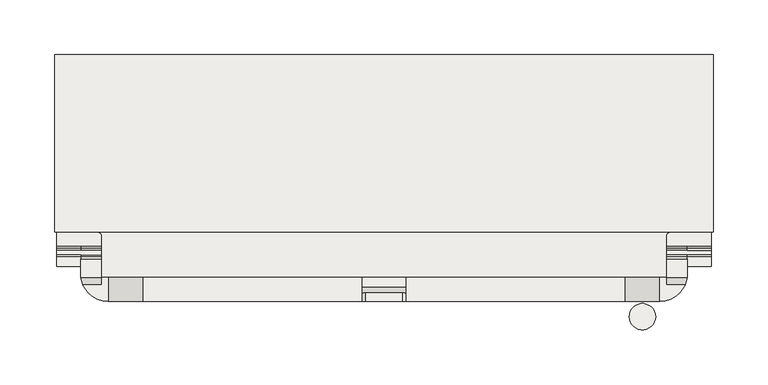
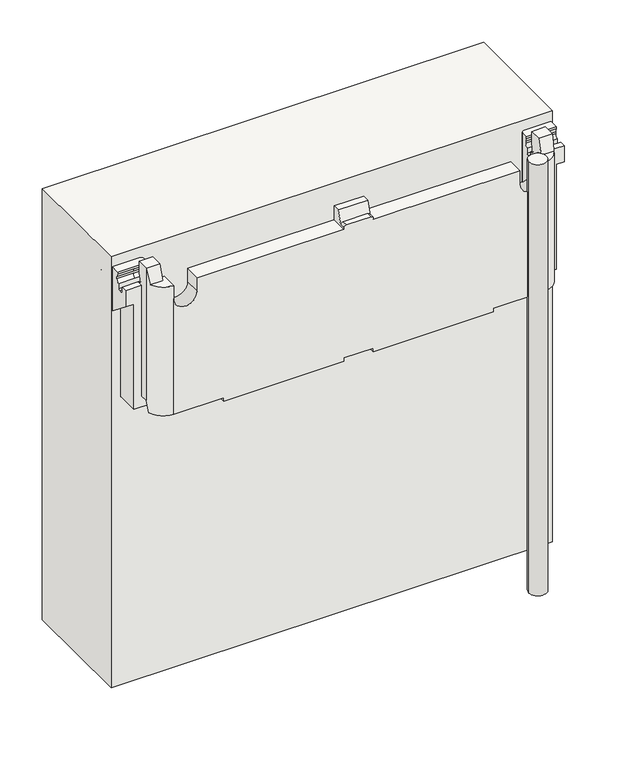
"""IFC4 building model written with IfcOpenShell, lengths in millimetres: covering geometry, panel VP Modulo prova ultima texture : panel VP Modulo prova ultima texture."""

from ifc_helpers import new_model, si_unit, point, frame, frame_2d, origin, origin_with_axes, place, context, project, spatial, polyline, circle_curve, ellipse_curve, trimmed, segment, composite_curve, outline, extrude, source, transform, mapped, element, save
from ifc_brep_helpers import plane_surface, cylinder_surface, revolved_surface, advanced_brep


def covering_1240b5f1(model_context):
    return source(origin(), model_context, "Body", "SolidModel", [
        advanced_brep(
        [(-20.0, 40.503817, 620.002181), (-20.0, 49.5015434, 620.002181), (-20.0, 49.5015434, 600.0051242), (-20.0, 27.5015432, 600.0051242), (-20.0, 27.5015432, 602.0051242), (-20.0, 34.5021229, 602.0051242), (20.0, 49.5015434, 620.002181), (20.0, 40.503817, 620.002181), (20.0, 34.5021229, 602.0051242), (20.0, 27.5015432, 602.0051242), (20.0, 27.5015432, 600.0051242), (20.0, 49.5015434, 600.0051242), (-17.0, 35.5025688, 605.0051242), (17.0, 35.5025688, 605.0051242), (17.0, 27.5015432, 605.0051242), (-17.0, 27.5015432, 605.0051242), (-276.2404059, 49.5015434, 620.0), (-276.2404059, 65.772467, 620.0), (-276.2404059, 65.772467, 602.0569559), (-276.2404059, 63.7739273, 597.1614448), (-276.2404059, 63.7739273, 594.1614448), (-276.2404059, 67.7745502, 589.465245), (-276.2404059, 59.5, 589.465245), (-276.2404059, 59.5, 430.0008375), (-276.2404059, 49.5015434, 430.0008375), (276.2404059, 67.7745502, 589.465245), (276.2404059, 63.7739273, 594.1614448), (276.2404059, 63.7739273, 597.1614448), (276.2404059, 65.772467, 602.0569559), (276.2404059, 65.772467, 620.0), (276.2404059, 49.5015434, 620.0), (276.2404059, 49.5015434, 430.0008375), (276.2404059, 59.5, 430.0008375), (276.2404059, 59.5, 589.465245), (219.5404059, 27.5015432, 600.0051242), (219.5404059, 49.5015434, 600.0051242), (257.5404059, 42.6167555, 600.0051242), (257.5404059, 49.5015434, 600.0051242), (251.5404059, 49.5015434, 600.0051242), (251.5404059, 27.5015432, 600.0051242), (274.4146377, 42.6167555, 600.0051242), (-251.5404059, 27.5015432, 600.0051242), (-251.5404059, 49.5015434, 600.0051242), (-257.5404059, 49.5015434, 600.0051242), (-257.5404059, 42.6167555, 600.0051242), (-274.4146377, 42.6167555, 600.0051242), (-219.5404059, 49.5015434, 600.0051242), (-219.5404059, 27.5015432, 600.0051242), (-276.2404059, 109.8415131, 437.0015138), (276.2404059, 109.8415131, 437.0015138), (276.2404059, 141.2113001, 464.6420064), (-276.2404059, 141.2113001, 464.6420064), (-276.2404059, 147.3447094, 471.104234), (276.2404059, 147.3447094, 471.104234), (276.2404059, 184.4941844, 517.9868892), (-276.2404059, 184.4941844, 517.9868892), (276.2404059, 184.4941844, 544.985744), (-276.2404059, 184.4941844, 544.985744), (298.2404059, 184.4914281, 544.985744), (298.2404059, 202.488872, 544.985744), (-298.2404059, 202.488872, 544.985744), (-298.2404059, 184.4914281, 544.985744), (-298.2404059, 202.488872, 505.2724689), (298.2404059, 202.488872, 505.2724689), (276.2404059, 193.4423608, 463.8939381), (-276.2404059, 193.4423608, 463.8939381), (-298.2404059, 193.4423608, 463.8939381), (298.2404059, 193.4423608, 463.8939381), (276.2404059, 190.281945, 462.7662479), (-276.2404059, 190.281945, 462.7662479), (298.2404059, 190.281945, 462.7662479), (298.2404059, 59.5, 566.3969024), (287.2404059, 59.5, 566.3969024), (287.2404059, 180.2456216, 470.7189571), (276.2404059, 180.2456216, 470.7189571), (-276.2404059, 180.2456216, 470.7189571), (-287.2404059, 180.2456216, 470.7189571), (-287.2404059, 59.5, 566.3969024), (-298.2404059, 59.5, 566.3969024), (-298.2404059, 190.281945, 462.7662479), (276.2404059, 174.5899002, 470.0638751), (-276.2404059, 174.5899002, 470.0638751), (287.2404059, 174.5899002, 470.0638751), (287.2404059, 160.5878776, 452.3933509), (-287.2404059, 160.5878776, 452.3933509), (-287.2404059, 174.5899002, 470.0638751), (-287.2404059, 118.1414154, 414.9929974), (287.2404059, 118.1414154, 414.9929974), (251.5404059, 118.1414154, 414.9929974), (211.5404059, 118.1414154, 414.9929974), (20.0, 118.1414154, 414.9929974), (-20.0, 118.1414154, 414.9929974), (-211.5404059, 118.1414154, 414.9929974), (-251.5404059, 118.1414154, 414.9929974), (-287.2404059, 59.5, 415.0051259), (-251.5404059, 78.1414154, 415.0051259), (-211.5404059, 78.1414154, 415.0051259), (-20.0, 78.1414154, 415.0051259), (20.0, 78.1414154, 415.0051259), (211.5404059, 78.1414154, 415.0051259), (251.5404059, 78.1414154, 415.0051259), (287.2404059, 59.5, 415.0051259), (266.2404059, 59.5, 415.0051259), (266.2404059, 44.6291413, 415.0051259), (275.1714066, 44.6291413, 415.0051259), (251.5404059, 27.5015432, 415.0051259), (183.2404059, 27.5015432, 415.0051259), (183.2404059, 67.5015432, 415.0051259), (20.0, 67.5015432, 415.0051259), (20.0, 27.5015432, 415.0051259), (-20.0, 27.5015432, 415.0051259), (-20.0, 67.5015432, 415.0051259), (-183.2404059, 67.5015432, 415.0051259), (-183.2404059, 27.5015432, 415.0051259), (-251.5404059, 27.5015432, 415.0051259), (-275.1714066, 44.6291413, 415.0051259), (-266.2404059, 44.6291413, 415.0051259), (-266.2404059, 59.5, 415.0051259), (-219.5404059, 27.5015432, 580.9815937), (-251.5404059, 27.5015432, 580.9815937), (-183.2404059, 27.5015432, 409.9955405), (-20.0, 27.5015432, 409.9955405), (20.0, 27.5015432, 409.9955405), (183.2404059, 27.5015432, 409.9955405), (251.5404059, 27.5015432, 580.9815937), (219.5404059, 27.5015432, 580.9815937), (-251.5404059, 49.5015434, 580.9815937), (-219.5404059, 49.5015434, 580.9815937), (219.5404059, 49.5015434, 580.9815937), (251.5404059, 49.5015434, 580.9815937), (257.5404059, 49.5015434, 437.0015138), (-257.5404059, 49.5015434, 437.0015138), (-276.2404059, 101.3665857, 437.0015138), (-265.6338042, 90.7599839, 437.0015138), (-261.9338042, 90.7599839, 437.0015138), (-257.5404059, 86.3665857, 437.0015138), (257.5404059, 86.3665857, 437.0015138), (261.9338042, 90.7599839, 437.0015138), (265.6338042, 90.7599839, 437.0015138), (276.2404059, 101.3665857, 437.0015138), (-298.2404059, 59.5, 589.465245), (-298.2404059, 67.7745502, 589.465245), (-298.2404059, 67.7745502, 582.4654102), (-298.2404059, 69.7745502, 580.4654102), (-298.2404059, 74.0001297, 580.4654102), (-298.2404059, 76.0001297, 582.4654102), (-298.2404059, 76.0001297, 589.465245), (-298.2404059, 80.0007527, 594.1614448), (-298.2404059, 80.0007527, 597.1614448), (-298.2404059, 78.002213, 602.0569559), (-298.2404059, 78.002213, 605.0086707), (-298.2404059, 115.166168, 605.0086707), (-298.2404059, 118.166168, 602.0086707), (-298.2404059, 118.166168, 585.7281184), (-298.2404059, 119.6447617, 583.1425192), (-276.2404059, 119.6447617, 583.1425192), (-276.2404059, 118.166168, 585.7281184), (-276.2404059, 118.166168, 602.0086707), (-276.2404059, 115.166168, 605.0086707), (-276.2404059, 101.3665857, 605.0086707), (-266.2404059, 59.5, 430.0008375), (-257.5404059, 67.7745502, 589.465245), (-257.5404059, 67.7745502, 582.4654102), (-276.2404059, 67.7745502, 582.4654102), (-276.2404059, 69.7745502, 580.4654102), (-257.5404059, 69.7745502, 580.4654102), (-257.5404059, 74.0001297, 580.4654102), (-276.2404059, 74.0001297, 580.4654102), (-276.2404059, 76.0001297, 582.4654102), (-257.5404059, 76.0001297, 582.4654102), (-257.5404059, 76.0001297, 589.465245), (-276.2404059, 76.0001297, 589.465245), (-276.2404059, 80.0007527, 594.1614448), (-257.5404059, 80.0007527, 594.1614448), (-257.5404059, 80.0007527, 597.1614448), (-276.2404059, 80.0007527, 597.1614448), (-276.2404059, 78.002213, 602.0569559), (-257.5404059, 78.002213, 602.0569559), (-257.5404059, 78.002213, 605.0086707), (-257.5404059, 86.3665857, 605.0086707), (-261.9338042, 90.7599839, 605.0086707), (-265.6338042, 90.7599839, 605.0086707), (-257.5404059, 63.7739273, 594.1614448), (-257.5404059, 63.7739273, 597.1614448), (-257.5404059, 65.772467, 602.0569559), (-257.5404059, 65.772467, 620.0), (-257.5404059, 49.5015434, 620.0), (298.2404059, 119.6447617, 583.1425192), (298.2404059, 118.166168, 585.7281184), (298.2404059, 118.166168, 602.0086707), (298.2404059, 115.166168, 605.0086707), (298.2404059, 78.002213, 605.0086707), (298.2404059, 78.002213, 602.0569559), (298.2404059, 80.0007527, 597.1614448), (298.2404059, 80.0007527, 594.1614448), (298.2404059, 76.0001297, 589.465245), (298.2404059, 76.0001297, 582.4654102), (298.2404059, 74.0001297, 580.4654102), (298.2404059, 69.7745502, 580.4654102), (298.2404059, 67.7745502, 582.4654102), (298.2404059, 67.7745502, 589.465245), (298.2404059, 59.5, 589.465245), (276.2404059, 115.166168, 605.0086707), (276.2404059, 118.166168, 602.0086707), (276.2404059, 118.166168, 585.7281184), (276.2404059, 119.6447617, 583.1425192), (276.2404059, 101.3665857, 605.0086707), (266.2404059, 59.5, 430.0008375), (276.2404059, 69.7745502, 580.4654102), (276.2404059, 67.7745502, 582.4654102), (276.2404059, 76.0001297, 582.4654102), (276.2404059, 74.0001297, 580.4654102), (276.2404059, 80.0007527, 594.1614448), (276.2404059, 76.0001297, 589.465245), (276.2404059, 78.002213, 602.0569559), (276.2404059, 80.0007527, 597.1614448), (257.5404059, 49.5015434, 620.0), (257.5404059, 65.772467, 620.0), (257.5404059, 65.772467, 602.0569559), (257.5404059, 63.7739273, 597.1614448), (257.5404059, 63.7739273, 594.1614448), (257.5404059, 67.7745502, 589.465245), (257.5404059, 67.7745502, 582.4654102), (257.5404059, 69.7745502, 580.4654102), (257.5404059, 74.0001297, 580.4654102), (257.5404059, 76.0001297, 582.4654102), (257.5404059, 76.0001297, 589.465245), (257.5404059, 80.0007527, 594.1614448), (257.5404059, 80.0007527, 597.1614448), (257.5404059, 78.002213, 602.0569559), (257.5404059, 78.002213, 605.0086707), (257.5404059, 86.3665857, 605.0086707), (265.6338042, 90.7599839, 605.0086707), (261.9338042, 90.7599839, 605.0086707), (251.5404059, 78.1414154, 409.9955405), (211.5404059, 78.1414154, 409.9955405), (211.5404059, 118.1414154, 409.9955405), (251.5404059, 118.1414154, 409.9955405), (-20.0, 78.1414154, 409.9955405), (-20.0, 118.1414154, 409.9955405), (20.0, 118.1414154, 409.9955405), (20.0, 78.1414154, 409.9955405), (-251.5404059, 78.1414154, 409.9955405), (-251.5404059, 118.1414154, 409.9955405), (-211.5404059, 118.1414154, 409.9955405), (-211.5404059, 78.1414154, 409.9955405), (20.0, 67.5015432, 409.9955405), (183.2404059, 67.5015432, 409.9955405), (-20.0, 67.5015432, 409.9955405), (-183.2404059, 67.5015432, 409.9955405), (-266.2404059, 49.5015434, 430.0008375), (266.2404059, 49.5015434, 430.0008375)],
        [
            (0, 1),
            (1, 2),
            (2, 3),
            (3, 4),
            (4, 5),
            (5, 0),
            (6, 7),
            (7, 8),
            (8, 9),
            (9, 10),
            (10, 11),
            (11, 6),
            (0, 7),
            (6, 1),
            (5, 12, ellipse_curve(frame((-17.0, 34.5021229, 602.0051242), z_axis=(0.0, 0.9486409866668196, -0.31635467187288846), x_axis=(0.0, 0.31635467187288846, 0.9486409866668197)), 3.1624187, 3.0)),
            (12, 13),
            (13, 8, ellipse_curve(frame((17.0, 34.5021229, 602.0051242), z_axis=(0.0, 0.9486409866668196, -0.31635467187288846), x_axis=(0.0, 0.31635467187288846, 0.9486409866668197)), 3.1624187, 3.0)),
            (14, 9, circle_curve(frame((17.0, 27.5015432, 602.0051242), z_axis=(0.0, 1.0, 0.0), x_axis=(-1.0, 0.0, 0.0)), 3.0)),
            (13, 14),
            (4, 15, circle_curve(frame((-17.0, 27.5015432, 602.0051242), z_axis=(0.0, 1.0, 0.0), x_axis=(-1.0, 0.0, 0.0)), 3.0)),
            (15, 12),
            (15, 14),
            (16, 17),
            (17, 18),
            (18, 19, circle_curve(frame((-276.2404059, 70.7690822, 597.1614448), z_axis=(1.0, 0.0, 0.0), x_axis=(0.0, -1.0, 0.0)), 6.9951549)),
            (19, 20),
            (20, 21, circle_curve(frame((-276.2404059, 68.5305961, 594.1614448), z_axis=(1.0, 0.0, 0.0), x_axis=(0.0, -1.0, 0.0)), 4.7566689)),
            (21, 22),
            (22, 23),
            (23, 24),
            (24, 16),
            (25, 26, circle_curve(frame((276.2404059, 68.5305961, 594.1614448), z_axis=(-1.0, 0.0, 0.0), x_axis=(0.0, -1.0, 0.0)), 4.7566689)),
            (26, 27),
            (27, 28, circle_curve(frame((276.2404059, 70.7690822, 597.1614448), z_axis=(-1.0, 0.0, 0.0), x_axis=(0.0, -1.0, 0.0)), 6.9951549)),
            (28, 29),
            (29, 30),
            (30, 31),
            (31, 32),
            (32, 33),
            (33, 25),
            (10, 34),
            (34, 35),
            (35, 11),
            (36, 37),
            (37, 38),
            (38, 39),
            (39, 40, circle_curve(frame((251.5404059, 52.367225, 600.0051242), z_axis=(0.0, 0.0, 1.0), x_axis=(1.0, 0.0, 0.0)), 24.8656818)),
            (40, 36),
            (41, 42),
            (42, 43),
            (43, 44),
            (44, 45),
            (45, 41, circle_curve(frame((-251.5404059, 52.367225, 600.0051242), z_axis=(0.0, 0.0, 1.0), x_axis=(-1.0, 0.0, 0.0)), 24.8656818)),
            (46, 47),
            (47, 3),
            (2, 46),
            (48, 49),
            (49, 50),
            (50, 51),
            (51, 48),
            (52, 53),
            (53, 54),
            (54, 55),
            (55, 52),
            (54, 56),
            (56, 57),
            (57, 55),
            (56, 58),
            (58, 59),
            (59, 60),
            (60, 61),
            (61, 57),
            (62, 60),
            (59, 63),
            (63, 62),
            (64, 65),
            (65, 66),
            (66, 62),
            (63, 67),
            (67, 64),
            (64, 68, circle_curve(frame((276.2404059, 191.5102381, 464.3163545), z_axis=(-1.0, 0.0, 0.0), x_axis=(0.0, -1.0, 0.0)), 1.9777598)),
            (68, 69),
            (69, 65, circle_curve(frame((-276.2404059, 191.5102381, 464.3163545), z_axis=(1.0, 0.0, 0.0), x_axis=(0.0, -1.0, 0.0)), 1.9777598)),
            (68, 70),
            (70, 71),
            (71, 72),
            (72, 73),
            (73, 74),
            (74, 75),
            (75, 76),
            (76, 77),
            (77, 78),
            (78, 79),
            (79, 69),
            (74, 80, circle_curve(frame((276.2404059, 177.7453022, 467.5635526), z_axis=(1.0, 0.0, 0.0), x_axis=(0.0, -1.0, 0.0)), 4.0259377)),
            (80, 81),
            (81, 75, circle_curve(frame((-276.2404059, 177.7453022, 467.5635526), z_axis=(-1.0, 0.0, 0.0), x_axis=(0.0, -1.0, 0.0)), 4.0259377)),
            (80, 82),
            (82, 83),
            (83, 84),
            (84, 85),
            (85, 81),
            (86, 84),
            (83, 87),
            (87, 88),
            (88, 89),
            (89, 90),
            (90, 91),
            (91, 92),
            (92, 93),
            (93, 86),
            (50, 53, circle_curve(frame((276.2404059, 108.1562691, 502.1568691), z_axis=(1.0, 0.0, 0.0), x_axis=(0.0, -1.0, 0.0)), 50.0)),
            (52, 51, circle_curve(frame((-276.2404059, 108.1562691, 502.1568691), z_axis=(-1.0, 0.0, 0.0), x_axis=(0.0, -1.0, 0.0)), 50.0)),
            (94, 86),
            (93, 95),
            (95, 96),
            (96, 92),
            (91, 97),
            (97, 98),
            (98, 90),
            (89, 99),
            (99, 100),
            (100, 88),
            (87, 101),
            (101, 102),
            (102, 103),
            (103, 104),
            (104, 105, circle_curve(frame((251.5404059, 52.367225, 415.0051259), z_axis=(0.0, 0.0, -1.0), x_axis=(1.0, 0.0, 0.0)), 24.8656818)),
            (105, 106),
            (106, 107),
            (107, 108),
            (108, 109),
            (109, 110),
            (110, 111),
            (111, 112),
            (112, 113),
            (113, 114),
            (114, 115, circle_curve(frame((-251.5404059, 52.367225, 415.0051259), z_axis=(0.0, 0.0, -1.0), x_axis=(-1.0, 0.0, 0.0)), 24.8656818)),
            (115, 116),
            (116, 117),
            (117, 94),
            (47, 118),
            (118, 119, circle_curve(frame((-235.5404059, 27.5015432, 580.9815937), z_axis=(0.0, 1.0, 0.0), x_axis=(-1.0, 0.0, 0.0)), 16.0)),
            (119, 114),
            (113, 120),
            (120, 121),
            (121, 110),
            (109, 122),
            (122, 123),
            (123, 106),
            (105, 124),
            (124, 125, circle_curve(frame((235.5404059, 27.5015432, 580.9815937), z_axis=(0.0, 1.0, 0.0), x_axis=(1.0, 0.0, 0.0)), 16.0)),
            (125, 34),
            (42, 126),
            (126, 127, circle_curve(frame((-235.5404059, 49.5015434, 580.9815937), z_axis=(0.0, -1.0, 0.0), x_axis=(-1.0, 0.0, 0.0)), 16.0)),
            (127, 46),
            (35, 128),
            (128, 129, circle_curve(frame((235.5404059, 49.5015434, 580.9815937), z_axis=(0.0, -1.0, 0.0), x_axis=(1.0, 0.0, 0.0)), 16.0)),
            (129, 38),
            (37, 130),
            (130, 131),
            (131, 43),
            (48, 132),
            (132, 133, circle_curve(frame((-265.6338042, 101.3665857, 437.0015138), z_axis=(0.0, 0.0, 1.0), x_axis=(-1.0, 0.0, 0.0)), 10.6066017)),
            (133, 134),
            (134, 135, circle_curve(frame((-261.9338042, 86.3665857, 437.0015138), z_axis=(0.0, 0.0, -1.0), x_axis=(-1.0, 0.0, 0.0)), 4.3933983)),
            (135, 131),
            (130, 136),
            (136, 137, circle_curve(frame((261.9338042, 86.3665857, 437.0015138), z_axis=(0.0, 0.0, -1.0), x_axis=(1.0, 0.0, 0.0)), 4.3933983)),
            (137, 138),
            (138, 139, circle_curve(frame((265.6338042, 101.3665857, 437.0015138), z_axis=(0.0, 0.0, 1.0), x_axis=(1.0, 0.0, 0.0)), 10.6066017)),
            (139, 49),
            (66, 79, circle_curve(frame((-298.2404059, 191.5102381, 464.3163545), z_axis=(-1.0, 0.0, 0.0), x_axis=(0.0, -1.0, 0.0)), 1.9777598)),
            (78, 140),
            (140, 141),
            (141, 142),
            (142, 143, circle_curve(frame((-298.2404059, 69.7745502, 582.4654102), z_axis=(1.0, 0.0, 0.0), x_axis=(0.0, -1.0, 0.0)), 2.0)),
            (143, 144),
            (144, 145, circle_curve(frame((-298.2404059, 74.0001297, 582.4654102), z_axis=(1.0, 0.0, 0.0), x_axis=(0.0, -1.0, 0.0)), 2.0)),
            (145, 146),
            (146, 147, circle_curve(frame((-298.2404059, 75.2440838, 594.1614448), z_axis=(1.0, 0.0, 0.0), x_axis=(0.0, -1.0, 0.0)), 4.7566689)),
            (147, 148),
            (148, 149, circle_curve(frame((-298.2404059, 73.0055977, 597.1614448), z_axis=(1.0, 0.0, 0.0), x_axis=(0.0, -1.0, 0.0)), 6.9951549)),
            (149, 150),
            (150, 151),
            (151, 152, circle_curve(frame((-298.2404059, 115.166168, 602.0086707), z_axis=(-1.0, 0.0, 0.0), x_axis=(0.0, -1.0, 0.0)), 3.0)),
            (152, 153),
            (153, 154, circle_curve(frame((-298.2404059, 121.166168, 585.7281184), z_axis=(1.0, 0.0, 0.0), x_axis=(0.0, -1.0, 0.0)), 3.0)),
            (154, 61),
            (57, 155),
            (155, 156, circle_curve(frame((-276.2404059, 121.166168, 585.7281184), z_axis=(-1.0, 0.0, 0.0), x_axis=(0.0, -1.0, 0.0)), 3.0)),
            (156, 157),
            (157, 158, circle_curve(frame((-276.2404059, 115.166168, 602.0086707), z_axis=(1.0, 0.0, 0.0), x_axis=(0.0, -1.0, 0.0)), 3.0)),
            (158, 159),
            (159, 132),
            (77, 94),
            (117, 160),
            (160, 23),
            (22, 140),
            (141, 21),
            (21, 161),
            (161, 162),
            (162, 163),
            (163, 142),
            (163, 164, circle_curve(frame((-276.2404059, 69.7745502, 582.4654102), z_axis=(1.0, 0.0, 0.0), x_axis=(0.0, -1.0, 0.0)), 2.0)),
            (164, 143),
            (164, 165),
            (165, 166),
            (166, 167),
            (167, 144),
            (167, 168, circle_curve(frame((-276.2404059, 74.0001297, 582.4654102), z_axis=(1.0, 0.0, 0.0), x_axis=(0.0, -1.0, 0.0)), 2.0)),
            (168, 145),
            (168, 169),
            (169, 170),
            (170, 171),
            (171, 146),
            (171, 172, circle_curve(frame((-276.2404059, 75.2440838, 594.1614448), z_axis=(1.0, 0.0, 0.0), x_axis=(0.0, -1.0, 0.0)), 4.7566689)),
            (172, 147),
            (172, 173),
            (173, 174),
            (174, 175),
            (175, 148),
            (175, 176, circle_curve(frame((-276.2404059, 73.0055977, 597.1614448), z_axis=(1.0, 0.0, 0.0), x_axis=(0.0, -1.0, 0.0)), 6.9951549)),
            (176, 149),
            (176, 177),
            (177, 178),
            (178, 150),
            (178, 179),
            (179, 180, circle_curve(frame((-261.9338042, 86.3665857, 605.0086707), z_axis=(0.0, 0.0, 1.0), x_axis=(-1.0, 0.0, 0.0)), 4.3933983)),
            (180, 181),
            (181, 159, circle_curve(frame((-265.6338042, 101.3665857, 605.0086707), z_axis=(0.0, 0.0, -1.0), x_axis=(-1.0, 0.0, 0.0)), 10.6066017)),
            (158, 151),
            (157, 152),
            (156, 153),
            (155, 154),
            (76, 85, circle_curve(frame((-287.2404059, 177.7453022, 467.5635526), z_axis=(1.0, 0.0, 0.0), x_axis=(0.0, -1.0, 0.0)), 4.0259377)),
            (45, 16, ellipse_curve(frame((-251.5404059, 52.367225, 628.3225437), z_axis=(0.0, 0.9455185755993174, -0.32556815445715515), x_axis=(0.0, -0.3255681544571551, -0.9455185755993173)), 76.3762716, 24.8656818)),
            (24, 115, ellipse_curve(frame((-251.5404059, 52.367225, 438.8204986), z_axis=(0.0, -0.9510565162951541, 0.3090169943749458), x_axis=(0.0, -0.30901699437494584, -0.9510565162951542)), 80.4670366, 24.8656818)),
            (119, 41),
            (177, 174, circle_curve(frame((-257.5404059, 73.0055977, 597.1614448), z_axis=(-1.0, 0.0, 0.0), x_axis=(0.0, -1.0, 0.0)), 6.9951549)),
            (173, 170, circle_curve(frame((-257.5404059, 75.2440838, 594.1614448), z_axis=(-1.0, 0.0, 0.0), x_axis=(0.0, -1.0, 0.0)), 4.7566689)),
            (169, 166, circle_curve(frame((-257.5404059, 74.0001297, 582.4654102), z_axis=(-1.0, 0.0, 0.0), x_axis=(0.0, -1.0, 0.0)), 2.0)),
            (165, 162, circle_curve(frame((-257.5404059, 69.7745502, 582.4654102), z_axis=(-1.0, 0.0, 0.0), x_axis=(0.0, -1.0, 0.0)), 2.0)),
            (161, 182, circle_curve(frame((-257.5404059, 68.5305961, 594.1614448), z_axis=(-1.0, 0.0, 0.0), x_axis=(0.0, -1.0, 0.0)), 4.7566689)),
            (182, 183),
            (183, 184, circle_curve(frame((-257.5404059, 70.7690822, 597.1614448), z_axis=(-1.0, 0.0, 0.0), x_axis=(0.0, -1.0, 0.0)), 6.9951549)),
            (184, 185),
            (185, 186),
            (186, 44),
            (135, 179),
            (16, 186),
            (185, 17),
            (184, 18),
            (183, 19),
            (182, 20),
            (134, 180),
            (133, 181),
            (39, 124),
            (104, 31, ellipse_curve(frame((251.5404059, 52.367225, 438.8204986), z_axis=(0.0, -0.9510565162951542, 0.3090169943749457), x_axis=(0.0, -0.3090169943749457, -0.9510565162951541)), 80.4670366, 24.8656818)),
            (30, 40, ellipse_curve(frame((251.5404059, 52.367225, 628.3225437), z_axis=(0.0, 0.9455185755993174, -0.3255681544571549), x_axis=(0.0, -0.3255681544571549, -0.9455185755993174)), 76.3762716, 24.8656818)),
            (58, 187),
            (187, 188, circle_curve(frame((298.2404059, 121.166168, 585.7281184), z_axis=(-1.0, 0.0, 0.0), x_axis=(0.0, -1.0, 0.0)), 3.0)),
            (188, 189),
            (189, 190, circle_curve(frame((298.2404059, 115.166168, 602.0086707), z_axis=(1.0, 0.0, 0.0), x_axis=(0.0, -1.0, 0.0)), 3.0)),
            (190, 191),
            (191, 192),
            (192, 193, circle_curve(frame((298.2404059, 73.0055977, 597.1614448), z_axis=(-1.0, 0.0, 0.0), x_axis=(0.0, -1.0, 0.0)), 6.9951549)),
            (193, 194),
            (194, 195, circle_curve(frame((298.2404059, 75.2440838, 594.1614448), z_axis=(-1.0, 0.0, 0.0), x_axis=(0.0, -1.0, 0.0)), 4.7566689)),
            (195, 196),
            (196, 197, circle_curve(frame((298.2404059, 74.0001297, 582.4654102), z_axis=(-1.0, 0.0, 0.0), x_axis=(0.0, -1.0, 0.0)), 2.0)),
            (197, 198),
            (198, 199, circle_curve(frame((298.2404059, 69.7745502, 582.4654102), z_axis=(-1.0, 0.0, 0.0), x_axis=(0.0, -1.0, 0.0)), 2.0)),
            (199, 200),
            (200, 201),
            (201, 71),
            (70, 67, circle_curve(frame((298.2404059, 191.5102381, 464.3163545), z_axis=(1.0, 0.0, 0.0), x_axis=(0.0, -1.0, 0.0)), 1.9777598)),
            (202, 203, circle_curve(frame((276.2404059, 115.166168, 602.0086707), z_axis=(-1.0, 0.0, 0.0), x_axis=(0.0, -1.0, 0.0)), 3.0)),
            (203, 204),
            (204, 205, circle_curve(frame((276.2404059, 121.166168, 585.7281184), z_axis=(1.0, 0.0, 0.0), x_axis=(0.0, -1.0, 0.0)), 3.0)),
            (205, 56),
            (139, 206),
            (206, 202),
            (201, 33),
            (32, 207),
            (207, 102),
            (101, 72),
            (198, 208),
            (208, 209, circle_curve(frame((276.2404059, 69.7745502, 582.4654102), z_axis=(-1.0, 0.0, 0.0), x_axis=(0.0, -1.0, 0.0)), 2.0)),
            (209, 199),
            (196, 210),
            (210, 211, circle_curve(frame((276.2404059, 74.0001297, 582.4654102), z_axis=(-1.0, 0.0, 0.0), x_axis=(0.0, -1.0, 0.0)), 2.0)),
            (211, 197),
            (194, 212),
            (212, 213, circle_curve(frame((276.2404059, 75.2440838, 594.1614448), z_axis=(-1.0, 0.0, 0.0), x_axis=(0.0, -1.0, 0.0)), 4.7566689)),
            (213, 195),
            (192, 214),
            (214, 215, circle_curve(frame((276.2404059, 73.0055977, 597.1614448), z_axis=(-1.0, 0.0, 0.0), x_axis=(0.0, -1.0, 0.0)), 6.9951549)),
            (215, 193),
            (189, 203),
            (202, 190),
            (188, 204),
            (187, 205),
            (200, 25),
            (36, 216),
            (216, 217),
            (217, 218),
            (218, 219, circle_curve(frame((257.5404059, 70.7690822, 597.1614448), z_axis=(1.0, 0.0, 0.0), x_axis=(0.0, -1.0, 0.0)), 6.9951549)),
            (219, 220),
            (220, 221, circle_curve(frame((257.5404059, 68.5305961, 594.1614448), z_axis=(1.0, 0.0, 0.0), x_axis=(0.0, -1.0, 0.0)), 4.7566689)),
            (221, 222),
            (222, 223, circle_curve(frame((257.5404059, 69.7745502, 582.4654102), z_axis=(1.0, 0.0, 0.0), x_axis=(0.0, -1.0, 0.0)), 2.0)),
            (223, 224),
            (224, 225, circle_curve(frame((257.5404059, 74.0001297, 582.4654102), z_axis=(1.0, 0.0, 0.0), x_axis=(0.0, -1.0, 0.0)), 2.0)),
            (225, 226),
            (226, 227, circle_curve(frame((257.5404059, 75.2440838, 594.1614448), z_axis=(1.0, 0.0, 0.0), x_axis=(0.0, -1.0, 0.0)), 4.7566689)),
            (227, 228),
            (228, 229, circle_curve(frame((257.5404059, 73.0055977, 597.1614448), z_axis=(1.0, 0.0, 0.0), x_axis=(0.0, -1.0, 0.0)), 6.9951549)),
            (229, 230),
            (230, 231),
            (231, 136),
            (221, 25),
            (209, 222),
            (208, 223),
            (29, 217),
            (216, 30),
            (28, 218),
            (27, 219),
            (26, 220),
            (211, 224),
            (210, 225),
            (213, 226),
            (212, 227),
            (215, 228),
            (214, 229),
            (191, 230),
            (206, 232, circle_curve(frame((265.6338042, 101.3665857, 605.0086707), z_axis=(0.0, 0.0, -1.0), x_axis=(1.0, 0.0, 0.0)), 10.6066017)),
            (232, 233),
            (233, 231, circle_curve(frame((261.9338042, 86.3665857, 605.0086707), z_axis=(0.0, 0.0, 1.0), x_axis=(1.0, 0.0, 0.0)), 4.3933983)),
            (233, 137),
            (232, 138),
            (119, 126),
            (127, 118),
            (129, 124),
            (125, 128),
            (82, 73, circle_curve(frame((287.2404059, 177.7453022, 467.5635526), z_axis=(-1.0, 0.0, 0.0), x_axis=(0.0, -1.0, 0.0)), 4.0259377)),
            (234, 235),
            (235, 236),
            (236, 237),
            (237, 234),
            (234, 100),
            (99, 235),
            (89, 236),
            (88, 237),
            (238, 239),
            (239, 240),
            (240, 241),
            (241, 238),
            (241, 98),
            (97, 238),
            (240, 90),
            (239, 91),
            (242, 243),
            (243, 244),
            (244, 245),
            (245, 242),
            (245, 96),
            (95, 242),
            (244, 92),
            (243, 93),
            (246, 247),
            (247, 123),
            (122, 246),
            (248, 121),
            (120, 249),
            (249, 248),
            (108, 246),
            (247, 107),
            (249, 112),
            (111, 248),
            (250, 160),
            (116, 250),
            (250, 24),
            (251, 103),
            (207, 251),
            (31, 251),
        ],
        [
            plane_surface(frame((-20.0, 49.5042184, 620.002181), z_axis=(-1.0, 0.0, 0.0), x_axis=(0.0, 1.0, 0.0))),
            plane_surface(frame((20.0, 49.5042184, 620.002181), z_axis=(1.0, 0.0, 0.0), x_axis=(0.0, -1.0, 0.0))),
            plane_surface(frame((-20.0, 40.503817, 620.002181), z_axis=(0.0, 0.0, 1.0), x_axis=(1.0, 0.0, 0.0))),
            plane_surface(frame((-20.0, 33.835159, 600.0051242), z_axis=(0.0, -0.9486409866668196, 0.31635467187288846), x_axis=(1.0, 0.0, 0.0))),
            cylinder_surface(frame((17.0, 27.5015432, 602.0051242), z_axis=(0.0, 1.0, 0.0), x_axis=(-1.0, 0.0, 0.0)), 3.0),
            cylinder_surface(frame((-17.0, 27.5015432, 602.0051242), z_axis=(0.0, 1.0, 0.0), x_axis=(-1.0, 0.0, 0.0)), 3.0),
            plane_surface(frame((-17.0, 49.501543, 605.0051242), z_axis=(0.0, 0.0, 1.0), x_axis=(0.0, -1.0, 0.0))),
            plane_surface(frame((-276.2404059, 118.1414154, 414.9929974), z_axis=(-1.0, 0.0, 0.0), x_axis=(0.0, -0.7502972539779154, -0.6611006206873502))),
            plane_surface(frame((276.2404059, 118.1414154, 414.9929974), z_axis=(1.0, 0.0, 0.0), x_axis=(0.0, 0.7502972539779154, 0.6611006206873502))),
            plane_surface(frame((-276.2404059, 27.5015432, 600.0051242), z_axis=(0.0, 0.0, 1.0), x_axis=(1.0, 0.0, 0.0))),
            plane_surface(frame((-276.2404059, 109.8415131, 437.0015138), z_axis=(0.0, -0.6611006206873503, 0.7502972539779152), x_axis=(1.0, 0.0, 0.0))),
            plane_surface(frame((-276.2404059, 147.3447094, 471.104234), z_axis=(0.0, -0.7837688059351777, 0.6210527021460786), x_axis=(1.0, 0.0, 0.0))),
            plane_surface(frame((-276.2404059, 184.4941844, 517.9868892), z_axis=(0.0, -1.0, 0.0), x_axis=(1.0, 0.0, 0.0))),
            plane_surface(frame((-276.2404059, 184.4941844, 544.985744), z_axis=(0.0, 0.0, 1.0), x_axis=(1.0, 0.0, 0.0))),
            plane_surface(frame((-276.2404059, 202.488872, 544.985744), z_axis=(0.0, 1.0, 0.0), x_axis=(1.0, 0.0, 0.0))),
            plane_surface(frame((-276.2404059, 202.488872, 505.2724689), z_axis=(0.0, 0.9769248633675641, -0.21358326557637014), x_axis=(1.0, 0.0, 0.0))),
            cylinder_surface(frame((276.2404059, 191.5102381, 464.3163545), z_axis=(-1.0, 0.0, 0.0), x_axis=(0.0, -1.0, 0.0)), 1.9777598),
            plane_surface(frame((-276.2404059, 190.281945, 462.7662479), z_axis=(0.0, -0.6210526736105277, -0.7837688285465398), x_axis=(1.0, 0.0, 0.0))),
            revolved_surface(polyline([(276.2404059, 173.71936449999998, 467.5635526), (-276.2404059, 173.71936449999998, 467.5635526)]), (276.2404059, 177.7453022, 467.5635526), (1.0, 0.0, 0.0)),
            plane_surface(frame((-276.2404059, 174.5899002, 470.0638751), z_axis=(0.0, 0.7837682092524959, -0.6210534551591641), x_axis=(1.0, 0.0, 0.0))),
            plane_surface(frame((-276.2404059, 160.5878776, 452.3933509), z_axis=(0.0, 0.6611006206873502, -0.7502972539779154), x_axis=(1.0, 0.0, 0.0))),
            revolved_surface(polyline([(276.2404059, 58.1562691, 502.1568691), (-276.2404059, 58.1562691, 502.1568691)]), (276.2404059, 108.1562691, 502.1568691), (1.0, 0.0, 0.0)),
            plane_surface(frame((-276.2404059, 118.1551803, 415.0051259), z_axis=(0.0, 0.0, -1.0), x_axis=(1.0, 0.0, 0.0))),
            plane_surface(frame((-276.2404059, 27.5015432, 415.0051259), z_axis=(0.0, -1.0, 0.0), x_axis=(1.0, 0.0, 0.0))),
            plane_surface(frame((-276.2404059, 49.5015434, 600.0051242), z_axis=(0.0, 1.0, 0.0), x_axis=(1.0, 0.0, 0.0))),
            plane_surface(frame((-276.2404059, 49.5015434, 437.0015138), z_axis=(0.0, 0.0, 1.0), x_axis=(1.0, 0.0, 0.0))),
            plane_surface(frame((-298.2404059, 202.488872, 505.2724689), z_axis=(-1.0000000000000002, 0.0, 0.0), x_axis=(0.0, -0.21358326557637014, -0.9769248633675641))),
            plane_surface(frame((-276.2404059, 202.488872, 505.2724689), z_axis=(1.0000000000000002, 0.0, 0.0), x_axis=(0.0, 0.21358326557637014, 0.9769248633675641))),
            cylinder_surface(frame((-276.2404059, 191.5102381, 464.3163545), z_axis=(-1.0, 0.0, 0.0), x_axis=(0.0, -1.0, 0.0)), 1.9777598),
            plane_surface(frame((-298.2404059, 59.5, 566.3969024), z_axis=(0.0, -1.0, 0.0), x_axis=(1.0, 0.0, 0.0))),
            plane_surface(frame((-298.2404059, 67.7745502, 589.465245), z_axis=(0.0, 1.0, 0.0), x_axis=(1.0, 0.0, 0.0))),
            revolved_surface(polyline([(-276.2404059, 67.7745502, 582.4654102), (-298.2404059, 67.7745502, 582.4654102)]), (-276.2404059, 69.7745502, 582.4654102), (1.0, 0.0, 0.0)),
            plane_surface(frame((-298.2404059, 69.7745502, 580.4654102), z_axis=(0.0, 0.0, 1.0), x_axis=(1.0, 0.0, 0.0))),
            revolved_surface(polyline([(-276.2404059, 72.0001297, 582.4654102), (-298.2404059, 72.0001297, 582.4654102)]), (-276.2404059, 74.0001297, 582.4654102), (1.0, 0.0, 0.0)),
            plane_surface(frame((-298.2404059, 76.0001297, 582.4654102), z_axis=(0.0, -1.0, 0.0), x_axis=(1.0, 0.0, 0.0))),
            revolved_surface(polyline([(-276.2404059, 70.4874149, 594.1614448), (-298.2404059, 70.4874149, 594.1614448)]), (-276.2404059, 75.2440838, 594.1614448), (1.0, 0.0, 0.0)),
            plane_surface(frame((-298.2404059, 80.0007527, 594.1614448), z_axis=(0.0, -1.0, 0.0), x_axis=(1.0, 0.0, 0.0))),
            revolved_surface(polyline([(-276.2404059, 66.01044279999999, 597.1614448), (-298.2404059, 66.01044279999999, 597.1614448)]), (-276.2404059, 73.0055977, 597.1614448), (1.0, 0.0, 0.0)),
            plane_surface(frame((-298.2404059, 78.002213, 602.0569559), z_axis=(0.0, -1.0, 0.0), x_axis=(1.0, 0.0, 0.0))),
            plane_surface(frame((-298.2404059, 78.002213, 605.0086707), z_axis=(0.0, 0.0, 1.0), x_axis=(1.0, 0.0, 0.0))),
            cylinder_surface(frame((-276.2404059, 115.166168, 602.0086707), z_axis=(-1.0, 0.0, 0.0), x_axis=(0.0, -1.0, 0.0)), 3.0),
            plane_surface(frame((-298.2404059, 118.166168, 602.0086707), z_axis=(0.0, 1.0, 0.0), x_axis=(1.0, 0.0, 0.0))),
            revolved_surface(polyline([(-276.2404059, 118.166168, 585.7281184), (-298.2404059, 118.166168, 585.7281184)]), (-276.2404059, 121.166168, 585.7281184), (1.0, 0.0, 0.0)),
            plane_surface(frame((-298.2404059, 119.6447617, 583.1425192), z_axis=(0.0, 0.5071354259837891, 0.8618663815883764), x_axis=(1.0, 0.0, 0.0))),
            plane_surface(frame((-298.2404059, 59.5, 589.465245), z_axis=(0.0, 0.0, 1.0), x_axis=(1.0, 0.0, 0.0))),
            plane_surface(frame((-287.2404059, 174.5899002, 470.0638751), z_axis=(-1.0, 0.0, 0.0), x_axis=(0.0, -0.6210534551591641, -0.7837682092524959))),
            revolved_surface(polyline([(-276.2404059, 173.71936449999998, 467.5635526), (-287.2404059, 173.71936449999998, 467.5635526)]), (-276.2404059, 177.7453022, 467.5635526), (1.0, 0.0, 0.0)),
            cylinder_surface(frame((-251.5404059, 52.367225, 409.9955405), z_axis=(0.0, 0.0, -1.0), x_axis=(-1.0, 0.0, 0.0)), 24.8656818),
            plane_surface(frame((-257.5404059, 33.2976457, 600.0051242), z_axis=(1.0, 0.0, 0.0), x_axis=(0.0, 1.0, 0.0))),
            revolved_surface(polyline([(-257.5404059, 67.7745502, 582.4654102), (-276.2404059, 67.7745502, 582.4654102)]), (-257.5404059, 69.7745502, 582.4654102), (1.0, 0.0, 0.0)),
            plane_surface(frame((-276.2404059, 49.5015434, 620.0), z_axis=(0.0, 0.0, 1.0), x_axis=(1.0, 0.0, 0.0))),
            plane_surface(frame((-276.2404059, 65.772467, 620.0), z_axis=(0.0, 1.0, 0.0), x_axis=(1.0, 0.0, 0.0))),
            revolved_surface(polyline([(-257.5404059, 63.7739273, 597.1614448), (-276.2404059, 63.7739273, 597.1614448)]), (-257.5404059, 70.7690822, 597.1614448), (1.0, 0.0, 0.0)),
            plane_surface(frame((-276.2404059, 63.7739273, 597.1614448), z_axis=(0.0, 1.0, 0.0), x_axis=(1.0, 0.0, 0.0))),
            revolved_surface(polyline([(-257.5404059, 63.773927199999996, 594.1614448), (-276.2404059, 63.773927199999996, 594.1614448)]), (-257.5404059, 68.5305961, 594.1614448), (1.0, 0.0, 0.0)),
            revolved_surface(polyline([(-257.5404059, 72.0001297, 582.4654102), (-276.2404059, 72.0001297, 582.4654102)]), (-257.5404059, 74.0001297, 582.4654102), (1.0, 0.0, 0.0)),
            revolved_surface(polyline([(-257.5404059, 70.4874149, 594.1614448), (-276.2404059, 70.4874149, 594.1614448)]), (-257.5404059, 75.2440838, 594.1614448), (1.0, 0.0, 0.0)),
            revolved_surface(polyline([(-257.5404059, 66.01044279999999, 597.1614448), (-276.2404059, 66.01044279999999, 597.1614448)]), (-257.5404059, 73.0055977, 597.1614448), (1.0, 0.0, 0.0)),
            plane_surface(frame((-276.2404059, 42.6167555, 600.0051242), z_axis=(0.0, -0.9455185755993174, 0.32556815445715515), x_axis=(1.0, 0.0, 0.0))),
            cylinder_surface(frame((-261.9338042, 86.3665857, 437.0015138), z_axis=(0.0, 0.0, 1.0), x_axis=(-1.0, 0.0, 0.0)), 4.3933983),
            plane_surface(frame((-261.9338042, 90.7599839, 605.0086707), z_axis=(0.0, 1.0, 0.0), x_axis=(0.0, 0.0, -1.0))),
            revolved_surface(polyline([(-276.2404059, 101.3665857, 437.0015138), (-276.2404059, 101.3665857, 605.0086707)]), (-265.6338042, 101.3665857, 437.0015138), (0.0, 0.0, -1.0)),
            cylinder_surface(frame((251.5404059, 52.367225, 409.9955405), z_axis=(0.0, 0.0, -1.0), x_axis=(1.0, 0.0, 0.0)), 24.8656818),
            plane_surface(frame((298.2404059, 202.488872, 544.985744), z_axis=(1.0, 0.0, 0.0), x_axis=(0.0, 0.0, 1.0))),
            plane_surface(frame((276.2404059, 202.488872, 544.985744), z_axis=(-1.0, 0.0, 0.0), x_axis=(0.0, 0.0, -1.0))),
            cylinder_surface(frame((276.2404059, 191.5102381, 464.3163545), z_axis=(1.0, 0.0, 0.0), x_axis=(0.0, -1.0, 0.0)), 1.9777598),
            plane_surface(frame((298.2404059, 59.5, 589.465245), z_axis=(0.0, -1.0, 0.0), x_axis=(-1.0, 0.0, 0.0))),
            revolved_surface(polyline([(276.2404059, 67.7745502, 582.4654102), (298.2404059, 67.7745502, 582.4654102)]), (276.2404059, 69.7745502, 582.4654102), (-1.0, 0.0, 0.0)),
            revolved_surface(polyline([(276.2404059, 72.0001297, 582.4654102), (298.2404059, 72.0001297, 582.4654102)]), (276.2404059, 74.0001297, 582.4654102), (-1.0, 0.0, 0.0)),
            revolved_surface(polyline([(276.2404059, 70.4874149, 594.1614448), (298.2404059, 70.4874149, 594.1614448)]), (276.2404059, 75.2440838, 594.1614448), (-1.0, 0.0, 0.0)),
            revolved_surface(polyline([(276.2404059, 66.01044279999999, 597.1614448), (298.2404059, 66.01044279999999, 597.1614448)]), (276.2404059, 73.0055977, 597.1614448), (-1.0, 0.0, 0.0)),
            cylinder_surface(frame((276.2404059, 115.166168, 602.0086707), z_axis=(1.0, 0.0, 0.0), x_axis=(0.0, -1.0, 0.0)), 3.0),
            plane_surface(frame((298.2404059, 118.166168, 585.7281184), z_axis=(0.0, 1.0, 0.0), x_axis=(-1.0, 0.0, 0.0))),
            revolved_surface(polyline([(276.2404059, 118.166168, 585.7281184), (298.2404059, 118.166168, 585.7281184)]), (276.2404059, 121.166168, 585.7281184), (-1.0, 0.0, 0.0)),
            plane_surface(frame((298.2404059, 184.4914281, 544.985744), z_axis=(0.0, 0.5071354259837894, 0.8618663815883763), x_axis=(-1.0, 0.0, 0.0))),
            plane_surface(frame((298.2404059, 67.7745502, 589.465245), z_axis=(0.0, 0.0, 1.0), x_axis=(-1.0, 0.0, 0.0))),
            plane_surface(frame((257.5404059, 49.5015434, 294.6622624), z_axis=(-1.0, 0.0, 0.0), x_axis=(0.0, 0.0, 1.0))),
            plane_surface(frame((276.2404059, 67.7745502, 582.4654102), z_axis=(0.0, 1.0, 0.0), x_axis=(-1.0, 0.0, 0.0))),
            revolved_surface(polyline([(257.5404059, 67.7745502, 582.4654102), (276.2404059, 67.7745502, 582.4654102)]), (257.5404059, 69.7745502, 582.4654102), (-1.0, 0.0, 0.0)),
            plane_surface(frame((276.2404059, 65.772467, 620.0), z_axis=(0.0, 0.0, 1.0), x_axis=(-1.0, 0.0, 0.0))),
            plane_surface(frame((276.2404059, 65.772467, 602.0569559), z_axis=(0.0, 1.0, 0.0), x_axis=(-1.0, 0.0, 0.0))),
            revolved_surface(polyline([(257.5404059, 63.7739273, 597.1614448), (276.2404059, 63.7739273, 597.1614448)]), (257.5404059, 70.7690822, 597.1614448), (-1.0, 0.0, 0.0)),
            plane_surface(frame((276.2404059, 63.7739273, 594.1614448), z_axis=(0.0, 1.0, 0.0), x_axis=(-1.0, 0.0, 0.0))),
            revolved_surface(polyline([(257.5404059, 63.773927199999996, 594.1614448), (276.2404059, 63.773927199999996, 594.1614448)]), (257.5404059, 68.5305961, 594.1614448), (-1.0, 0.0, 0.0)),
            plane_surface(frame((276.2404059, 74.0001297, 580.4654102), z_axis=(0.0, 0.0, 1.0), x_axis=(-1.0, 0.0, 0.0))),
            revolved_surface(polyline([(257.5404059, 72.0001297, 582.4654102), (276.2404059, 72.0001297, 582.4654102)]), (257.5404059, 74.0001297, 582.4654102), (-1.0, 0.0, 0.0)),
            plane_surface(frame((276.2404059, 76.0001297, 589.465245), z_axis=(0.0, -1.0, 0.0), x_axis=(-1.0, 0.0, 0.0))),
            revolved_surface(polyline([(257.5404059, 70.4874149, 594.1614448), (276.2404059, 70.4874149, 594.1614448)]), (257.5404059, 75.2440838, 594.1614448), (-1.0, 0.0, 0.0)),
            plane_surface(frame((276.2404059, 80.0007527, 597.1614448), z_axis=(0.0, -1.0, 0.0), x_axis=(-1.0, 0.0, 0.0))),
            revolved_surface(polyline([(257.5404059, 66.01044279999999, 597.1614448), (276.2404059, 66.01044279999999, 597.1614448)]), (257.5404059, 73.0055977, 597.1614448), (-1.0, 0.0, 0.0)),
            plane_surface(frame((276.2404059, 78.002213, 605.0086707), z_axis=(0.0, -1.0, 0.0), x_axis=(-1.0, 0.0, 0.0))),
            plane_surface(frame((276.2404059, 86.3665857, 605.0086707), z_axis=(0.0, 0.0, 1.0), x_axis=(-1.0, 0.0, 0.0))),
            plane_surface(frame((276.2404059, 49.5015434, 620.0), z_axis=(0.0, -0.9455185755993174, 0.3255681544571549), x_axis=(-1.0, 0.0, 0.0))),
            cylinder_surface(frame((261.9338042, 86.3665857, 437.0015138), z_axis=(0.0, 0.0, 1.0), x_axis=(1.0, 0.0, 0.0)), 4.3933983),
            plane_surface(frame((265.6338042, 90.7599839, 605.0086707), z_axis=(0.0, 1.0, 0.0), x_axis=(0.0, 0.0, -1.0))),
            revolved_surface(polyline([(276.2404059, 101.3665857, 437.0015138), (276.2404059, 101.3665857, 605.0086707)]), (265.6338042, 101.3665857, 437.0015138), (0.0, 0.0, -1.0)),
            plane_surface(frame((-251.5404059, 76.0001297, 580.9815937), z_axis=(1.0, 0.0, 0.0), x_axis=(0.0, -1.0, 0.0))),
            plane_surface(frame((-219.5404059, 76.0001297, 611.9118036), z_axis=(-1.0, 0.0, 0.0), x_axis=(0.0, -1.0, 0.0))),
            revolved_surface(polyline([(-251.5404059, 49.5015434, 580.9815937), (-251.5404059, 27.5015432, 580.9815937)]), (-235.5404059, -1.8695967, 580.9815937), (0.0, 1.0, 0.0)),
            plane_surface(frame((251.5404059, 76.0001297, 611.9118036), z_axis=(-1.0, 0.0, 0.0), x_axis=(0.0, -1.0, 0.0))),
            plane_surface(frame((219.5404059, 76.0001297, 580.9815937), z_axis=(1.0, 0.0, 0.0), x_axis=(0.0, -1.0, 0.0))),
            revolved_surface(polyline([(251.5404059, 49.5015434, 580.9815937), (251.5404059, 27.5015432, 580.9815937)]), (235.5404059, -1.8695967, 580.9815937), (0.0, 1.0, 0.0)),
            plane_surface(frame((287.2404059, 173.7193644, 467.5635526), z_axis=(1.0, 0.0, 0.0), x_axis=(0.0, 0.0, 1.0))),
            revolved_surface(polyline([(276.2404059, 173.71936449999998, 467.5635526), (287.2404059, 173.71936449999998, 467.5635526)]), (276.2404059, 177.7453022, 467.5635526), (-1.0, 0.0, 0.0)),
            plane_surface(frame((251.5404059, 78.1414154, 409.9955405), z_axis=(0.0, 0.0, -1.0), x_axis=(0.0, -1.0, 0.0))),
            plane_surface(frame((211.5404059, 78.1414154, 414.9870468), z_axis=(0.0, -1.0, 0.0), x_axis=(0.0, 0.0, -1.0))),
            plane_surface(frame((211.5404059, 118.1414154, 414.9870468), z_axis=(-1.0, 0.0, 0.0), x_axis=(0.0, 0.0, -1.0))),
            plane_surface(frame((251.5404059, 118.1414154, 414.9870468), z_axis=(0.0, 1.0, 0.0), x_axis=(0.0, 0.0, -1.0))),
            plane_surface(frame((251.5404059, 78.1414154, 414.9870468), z_axis=(1.0, 0.0, 0.0), x_axis=(0.0, 0.0, -1.0))),
            plane_surface(frame((20.0, 78.1414154, 409.9955405), z_axis=(0.0, 0.0, -1.0), x_axis=(-1.0, 0.0, 0.0))),
            plane_surface(frame((-20.0, 78.1414154, 414.9870468), z_axis=(0.0, -1.0, 0.0), x_axis=(0.0, 0.0, -1.0))),
            plane_surface(frame((20.0, 78.1414154, 414.9870468), z_axis=(1.0, 0.0, 0.0), x_axis=(0.0, 0.0, -1.0))),
            plane_surface(frame((20.0, 118.1414154, 414.9870468), z_axis=(0.0, 1.0, 0.0), x_axis=(0.0, 0.0, -1.0))),
            plane_surface(frame((-20.0, 118.1414154, 414.9870468), z_axis=(-1.0, 0.0, 0.0), x_axis=(0.0, 0.0, -1.0))),
            plane_surface(frame((-211.5404059, 78.1414154, 409.9955405), z_axis=(0.0, 0.0, -1.0), x_axis=(-1.0, 0.0, 0.0))),
            plane_surface(frame((-251.5404059, 78.1414154, 414.9870468), z_axis=(0.0, -1.0, 0.0), x_axis=(0.0, 0.0, -1.0))),
            plane_surface(frame((-211.5404059, 78.1414154, 414.9870468), z_axis=(1.0, 0.0, 0.0), x_axis=(0.0, 0.0, -1.0))),
            plane_surface(frame((-211.5404059, 118.1414154, 414.9870468), z_axis=(0.0, 1.0, 0.0), x_axis=(0.0, 0.0, -1.0))),
            plane_surface(frame((-251.5404059, 118.1414154, 414.9870468), z_axis=(-1.0, 0.0, 0.0), x_axis=(0.0, 0.0, -1.0))),
            plane_surface(frame((20.0, 27.5015432, 409.9955405), z_axis=(0.0, 0.0, -1.0), x_axis=(0.0, 1.0, 0.0))),
            plane_surface(frame((20.0, 67.5015432, 414.9870468), z_axis=(-1.0, 0.0, 0.0), x_axis=(0.0, 0.0, -1.0))),
            plane_surface(frame((183.2404059, 27.5015432, 414.9870468), z_axis=(1.0, 0.0, 0.0), x_axis=(0.0, 0.0, -1.0))),
            plane_surface(frame((183.2404059, 67.5015432, 414.9870468), z_axis=(0.0, 1.0, 0.0), x_axis=(0.0, 0.0, -1.0))),
            plane_surface(frame((-20.0, 67.5015432, 414.9870468), z_axis=(0.0, 1.0, 0.0), x_axis=(0.0, 0.0, -1.0))),
            plane_surface(frame((-183.2404059, 67.5015432, 414.9870468), z_axis=(-1.0, 0.0, 0.0), x_axis=(0.0, 0.0, -1.0))),
            plane_surface(frame((-20.0, 27.5015432, 414.9870468), z_axis=(1.0, 0.0, 0.0), x_axis=(0.0, 0.0, -1.0))),
            plane_surface(frame((-266.2404059, 59.5, 430.0008375), z_axis=(-1.0, 0.0, 0.0), x_axis=(0.0, -1.0, 0.0))),
            plane_surface(frame((-298.2404059, 49.5015434, 430.0008375), z_axis=(0.0, 0.0, -1.0), x_axis=(1.0, 0.0, 0.0))),
            plane_surface(frame((-298.2404059, 44.6291413, 415.0051259), z_axis=(0.0, 0.9510565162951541, -0.3090169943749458), x_axis=(1.0, 0.0, 0.0))),
            plane_surface(frame((266.2404059, 49.5015434, 430.0008375), z_axis=(1.0000000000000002, 0.0, 0.0), x_axis=(0.0, 0.3090169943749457, 0.9510565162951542))),
            plane_surface(frame((298.2404059, 59.5, 430.0008375), z_axis=(0.0, 0.0, -1.0), x_axis=(-1.0, 0.0, 0.0))),
            plane_surface(frame((298.2404059, 49.5015434, 430.0008375), z_axis=(0.0, 0.9510565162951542, -0.3090169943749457), x_axis=(-1.0, 0.0, 0.0))),
        ],
        [
            (0, [[1, 2, 3, 4, 5, 6]]),
            (1, [[7, 8, 9, 10, 11, 12]]),
            (2, [[-1, 13, -7, 14]]),
            (3, [[-13, -6, 15, 16, 17, -8]]),
            (4, [[18, -9, -17, 19]]),
            (5, [[20, 21, -15, -5]]),
            (6, [[22, -19, -16, -21]]),
            (7, [[23, 24, 25, 26, 27, 28, 29, 30, 31]]),
            (8, [[32, 33, 34, 35, 36, 37, 38, 39, 40]]),
            (9, [[-11, 41, 42, 43]]),
            (9, [[44, 45, 46, 47, 48]]),
            (9, [[49, 50, 51, 52, 53]]),
            (9, [[54, 55, -3, 56]]),
            (10, [[57, 58, 59, 60]]),
            (11, [[61, 62, 63, 64]]),
            (12, [[-63, 65, 66, 67]]),
            (13, [[-66, 68, 69, 70, 71, 72]]),
            (14, [[73, -70, 74, 75]]),
            (15, [[76, 77, 78, -75, 79, 80]]),
            (16, [[-76, 81, 82, 83]]),
            (17, [[-82, 84, 85, 86, 87, 88, 89, 90, 91, 92, 93, 94]]),
            (18, [[-89, 95, 96, 97]]),
            (19, [[-96, 98, 99, 100, 101, 102]]),
            (20, [[103, -100, 104, 105, 106, 107, 108, 109, 110, 111]]),
            (21, [[-59, 112, -61, 113]]),
            (22, [[114, -111, 115, 116, 117, -109, 118, 119, 120, -107, 121, 122, 123, -105, 124, 125, 126, 127, 128, 129, 130, 131, 132, 133, 134, 135, 136, 137, 138, 139, 140, 141]]),
            (23, [[142, 143, 144, -137, 145, 146, 147, -133, 148, 149, 150, -129, 151, 152, 153, -41, -10, -18, -22, -20, -4, -55]]),
            (24, [[154, 155, 156, -56, -2, -14, -12, -43, 157, 158, 159, -45, 160, 161, 162, -50]]),
            (25, [[-57, 163, 164, 165, 166, 167, -161, 168, 169, 170, 171, 172]]),
            (26, [[-78, 173, -93, 174, 175, 176, 177, 178, 179, 180, 181, 182, 183, 184, 185, 186, 187, 188, 189, -71, -73]]),
            (27, [[190, 191, 192, 193, 194, 195, -163, -60, -113, -64, -67]]),
            (28, [[-173, -77, -83, -94]]),
            (29, [[-174, -92, 196, -141, 197, 198, -29, 199]]),
            (30, [[-176, 200, 201, 202, 203, 204]]),
            (31, [[-177, -204, 205, 206]]),
            (32, [[-178, -206, 207, 208, 209, 210]]),
            (33, [[-179, -210, 211, 212]]),
            (34, [[-180, -212, 213, 214, 215, 216]]),
            (35, [[-181, -216, 217, 218]]),
            (36, [[-182, -218, 219, 220, 221, 222]]),
            (37, [[-183, -222, 223, 224]]),
            (38, [[-184, -224, 225, 226, 227]]),
            (39, [[-185, -227, 228, 229, 230, 231, -194, 232]]),
            (40, [[-186, -232, -193, 233]]),
            (41, [[-187, -233, -192, 234]]),
            (42, [[-188, -234, -191, 235]]),
            (43, [[-189, -235, -190, -72]]),
            (44, [[-175, -199, -28, -200]]),
            (45, [[-101, -103, -114, -196, -91, 236]]),
            (46, [[-236, -90, -97, -102]]),
            (47, [[-53, 237, -31, 238, -138, -144, 239]]),
            (48, [[-228, -226, 240, -220, 241, -214, 242, -208, 243, -202, 244, 245, 246, 247, 248, 249, -51, -162, -167, 250]]),
            (49, [[-243, -207, -205, -203]]),
            (50, [[-23, 251, -248, 252]]),
            (51, [[-24, -252, -247, 253]]),
            (52, [[-25, -253, -246, 254]]),
            (53, [[-26, -254, -245, 255]]),
            (54, [[-27, -255, -244, -201]]),
            (55, [[-242, -213, -211, -209]]),
            (56, [[-241, -219, -217, -215]]),
            (57, [[-240, -225, -223, -221]]),
            (58, [[-249, -251, -237, -52]]),
            (59, [[-229, -250, -166, 256]]),
            (60, [[-230, -256, -165, 257]]),
            (61, [[-231, -257, -164, -195]]),
            (62, [[-47, 258, -151, -128, 259, -37, 260]]),
            (63, [[-74, -69, 261, 262, 263, 264, 265, 266, 267, 268, 269, 270, 271, 272, 273, 274, 275, 276, -85, 277, -79]]),
            (64, [[278, 279, 280, 281, -65, -62, -112, -58, -172, 282, 283]]),
            (65, [[-277, -84, -81, -80]]),
            (66, [[-276, 284, -39, 285, 286, -125, 287, -86]]),
            (67, [[-273, 288, 289, 290]]),
            (68, [[-271, 291, 292, 293]]),
            (69, [[-269, 294, 295, 296]]),
            (70, [[-267, 297, 298, 299]]),
            (71, [[-264, 300, -278, 301]]),
            (72, [[-263, 302, -279, -300]]),
            (73, [[-262, 303, -280, -302]]),
            (74, [[-261, -68, -281, -303]]),
            (75, [[-275, 304, -40, -284]]),
            (76, [[305, 306, 307, 308, 309, 310, 311, 312, 313, 314, 315, 316, 317, 318, 319, 320, 321, -168, -160, -44]]),
            (77, [[-311, 322, -304, -274, -290, 323]]),
            (78, [[-312, -323, -289, 324]]),
            (79, [[-36, 325, -306, 326]]),
            (80, [[-35, 327, -307, -325]]),
            (81, [[-34, 328, -308, -327]]),
            (82, [[-33, 329, -309, -328]]),
            (83, [[-32, -322, -310, -329]]),
            (84, [[-313, -324, -288, -272, -293, 330]]),
            (85, [[-314, -330, -292, 331]]),
            (86, [[-315, -331, -291, -270, -296, 332]]),
            (87, [[-316, -332, -295, 333]]),
            (88, [[-317, -333, -294, -268, -299, 334]]),
            (89, [[-318, -334, -298, 335]]),
            (90, [[-319, -335, -297, -266, 336]]),
            (91, [[-320, -336, -265, -301, -283, 337, 338, 339]]),
            (92, [[-305, -48, -260, -326]]),
            (93, [[-339, 340, -169, -321]]),
            (94, [[-338, 341, -170, -340]]),
            (95, [[-337, -282, -171, -341]]),
            (96, [[342, -154, -49, -239]]),
            (97, [[343, -142, -54, -156]]),
            (98, [[-342, -143, -343, -155]]),
            (99, [[344, -258, -46, -159]]),
            (100, [[345, -157, -42, -153]]),
            (101, [[-345, -152, -344, -158]]),
            (102, [[346, -87, -287, -124, -104, -99]]),
            (103, [[-346, -98, -95, -88]]),
            (104, [[347, 348, 349, 350]]),
            (105, [[-347, 351, -122, 352]]),
            (106, [[-348, -352, -121, 353]]),
            (107, [[-349, -353, -106, 354]]),
            (108, [[-350, -354, -123, -351]]),
            (109, [[355, 356, 357, 358]]),
            (110, [[-358, 359, -119, 360]]),
            (111, [[-357, 361, -120, -359]]),
            (112, [[-356, 362, -108, -361]]),
            (113, [[-355, -360, -118, -362]]),
            (114, [[363, 364, 365, 366]]),
            (115, [[-366, 367, -116, 368]]),
            (116, [[-365, 369, -117, -367]]),
            (117, [[-364, 370, -110, -369]]),
            (118, [[-363, -368, -115, -370]]),
            (119, [[371, 372, -149, 373]]),
            (119, [[374, -146, 375, 376]]),
            (120, [[-373, -148, -132, 377]]),
            (121, [[-372, 378, -130, -150]]),
            (122, [[-371, -377, -131, -378]]),
            (123, [[-376, 379, -135, 380]]),
            (124, [[-375, -145, -136, -379]]),
            (125, [[-374, -380, -134, -147]]),
            (126, [[381, -197, -140, 382]]),
            (127, [[-381, 383, -30, -198]]),
            (128, [[-382, -139, -238, -383]]),
            (129, [[384, -126, -286, 385]]),
            (130, [[-385, -285, -38, 386]]),
            (131, [[-384, -386, -259, -127]]),
        ],
    ),
        extrude(outline(polyline([(300.0404059, 252.488872), (300.0404059, 90.7599839), (-300.0404059, 90.7599839), (-300.0404059, 252.488872), (300.0404059, 252.488872)])), origin_with_axes(), (0.0, 0.0, 1.0), 620.0),
        extrude(outline(composite_curve([segment(trimmed(circle_curve(frame_2d((235.5404059, 13.4534456)), 12.0), [point((223.5404059, 13.4534456))], [point((247.5404059, 13.4534456))], False, "CARTESIAN"), True, "CONTINUOUS"), segment(trimmed(circle_curve(frame_2d((235.5404059, 13.4534456)), 12.0), [point((247.5404059, 13.4534456))], [point((223.5404059, 13.4534456))], False, "CARTESIAN"), True, "CONTINUOUS")], self_intersect=False)), origin_with_axes(), (0.0, 0.0, 1.0), 620.0),
    ])


if __name__ == "__main__":
    model = new_model("IFC4")
    model_context = context("Model", 3, world=origin())
    ifc_project = project(units=[si_unit("LENGTHUNIT", "METRE", prefix="MILLI")], contexts=[model_context])
    site = spatial("IfcSite", under=ifc_project)
    building = spatial("IfcBuilding", under=site)
    placement = place(None, origin())
    covering_shape = covering_1240b5f1(model_context)
    element("IfcCovering", 1, ObjectType="panel VP Modulo prova ultima texture : panel VP Modulo prova ultima texture", at=placement, inside=building, context=model_context, shape_type="MappedRepresentation", body=[
        mapped(covering_shape, transform((0.0, 0.0, 0.0), x_axis=(1.0, 0.0, 0.0), y_axis=(0.0, 1.0, 0.0), z_axis=(0.0, 0.0, 1.0))),
    ])
    save(model, "model.ifc")
